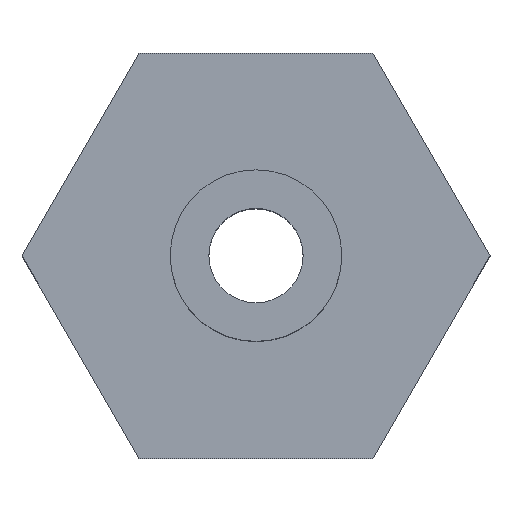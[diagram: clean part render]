
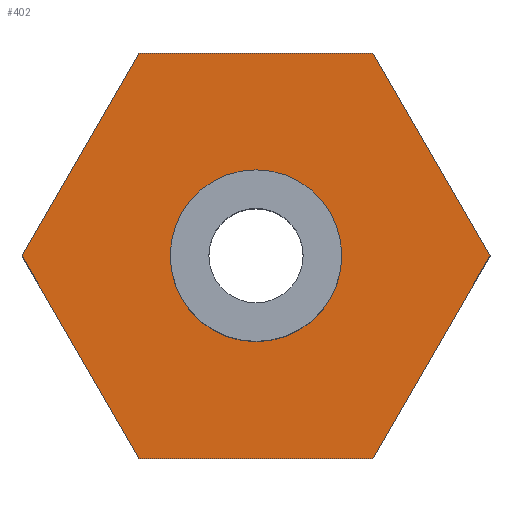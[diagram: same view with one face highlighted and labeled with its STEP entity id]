
A CAD part, top view. The second image highlights one B-rep face of the part: STEP entity #402.
In plain terms, the highlighted planar face has unit normal (0, 0, 1).
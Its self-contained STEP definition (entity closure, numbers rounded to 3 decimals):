
#24 = VERTEX_POINT('',#25);
#25 = CARTESIAN_POINT('',(26.05,0.,11.8));
#32 = PLANE('',#33);
#33 = AXIS2_PLACEMENT_3D('',#34,#35,#36);
#34 = CARTESIAN_POINT('',(26.05,0.,0.));
#35 = DIRECTION('',(-0.866,-0.5,0.));
#36 = DIRECTION('',(-0.5,0.866,0.));
#44 = PLANE('',#45);
#45 = AXIS2_PLACEMENT_3D('',#46,#47,#48);
#46 = CARTESIAN_POINT('',(13.025,-22.56,0.));
#47 = DIRECTION('',(-0.866,0.5,0.));
#48 = DIRECTION('',(0.5,0.866,0.));
#56 = EDGE_CURVE('',#24,#57,#59,.T.);
#57 = VERTEX_POINT('',#58);
#58 = CARTESIAN_POINT('',(13.025,22.56,11.8));
#59 = SURFACE_CURVE('',#60,(#64,#71),.PCURVE_S1.);
#60 = LINE('',#61,#62);
#61 = CARTESIAN_POINT('',(26.05,0.,11.8));
#62 = VECTOR('',#63,1.);
#63 = DIRECTION('',(-0.5,0.866,0.));
#64 = PCURVE('',#32,#65);
#65 = DEFINITIONAL_REPRESENTATION('',(#66),#70);
#66 = LINE('',#67,#68);
#67 = CARTESIAN_POINT('',(0.,-11.8));
#68 = VECTOR('',#69,1.);
#69 = DIRECTION('',(1.,0.));
#70 = ( GEOMETRIC_REPRESENTATION_CONTEXT(2) 
PARAMETRIC_REPRESENTATION_CONTEXT() REPRESENTATION_CONTEXT('2D SPACE',''
  ) );
#71 = PCURVE('',#72,#77);
#72 = PLANE('',#73);
#73 = AXIS2_PLACEMENT_3D('',#74,#75,#76);
#74 = CARTESIAN_POINT('',(0.,0.,11.8));
#75 = DIRECTION('',(0.,0.,1.));
#76 = DIRECTION('',(1.,0.,-0.));
#77 = DEFINITIONAL_REPRESENTATION('',(#78),#82);
#78 = LINE('',#79,#80);
#79 = CARTESIAN_POINT('',(26.05,0.));
#80 = VECTOR('',#81,1.);
#81 = DIRECTION('',(-0.5,0.866));
#82 = ( GEOMETRIC_REPRESENTATION_CONTEXT(2) 
PARAMETRIC_REPRESENTATION_CONTEXT() REPRESENTATION_CONTEXT('2D SPACE',''
  ) );
#100 = PLANE('',#101);
#101 = AXIS2_PLACEMENT_3D('',#102,#103,#104);
#102 = CARTESIAN_POINT('',(13.025,22.56,0.));
#103 = DIRECTION('',(0.,-1.,0.));
#104 = DIRECTION('',(-1.,0.,0.));
#144 = VERTEX_POINT('',#145);
#145 = CARTESIAN_POINT('',(13.025,-22.56,11.8));
#159 = PLANE('',#160);
#160 = AXIS2_PLACEMENT_3D('',#161,#162,#163);
#161 = CARTESIAN_POINT('',(-13.025,-22.56,0.));
#162 = DIRECTION('',(0.,1.,-0.));
#163 = DIRECTION('',(1.,0.,0.));
#171 = EDGE_CURVE('',#144,#24,#172,.T.);
#172 = SURFACE_CURVE('',#173,(#177,#184),.PCURVE_S1.);
#173 = LINE('',#174,#175);
#174 = CARTESIAN_POINT('',(13.025,-22.56,11.8));
#175 = VECTOR('',#176,1.);
#176 = DIRECTION('',(0.5,0.866,0.));
#177 = PCURVE('',#44,#178);
#178 = DEFINITIONAL_REPRESENTATION('',(#179),#183);
#179 = LINE('',#180,#181);
#180 = CARTESIAN_POINT('',(0.,-11.8));
#181 = VECTOR('',#182,1.);
#182 = DIRECTION('',(1.,0.));
#183 = ( GEOMETRIC_REPRESENTATION_CONTEXT(2) 
PARAMETRIC_REPRESENTATION_CONTEXT() REPRESENTATION_CONTEXT('2D SPACE',''
  ) );
#184 = PCURVE('',#72,#185);
#185 = DEFINITIONAL_REPRESENTATION('',(#186),#190);
#186 = LINE('',#187,#188);
#187 = CARTESIAN_POINT('',(13.025,-22.56));
#188 = VECTOR('',#189,1.);
#189 = DIRECTION('',(0.5,0.866));
#190 = ( GEOMETRIC_REPRESENTATION_CONTEXT(2) 
PARAMETRIC_REPRESENTATION_CONTEXT() REPRESENTATION_CONTEXT('2D SPACE',''
  ) );
#218 = EDGE_CURVE('',#57,#219,#221,.T.);
#219 = VERTEX_POINT('',#220);
#220 = CARTESIAN_POINT('',(-13.025,22.56,11.8));
#221 = SURFACE_CURVE('',#222,(#226,#233),.PCURVE_S1.);
#222 = LINE('',#223,#224);
#223 = CARTESIAN_POINT('',(13.025,22.56,11.8));
#224 = VECTOR('',#225,1.);
#225 = DIRECTION('',(-1.,0.,0.));
#226 = PCURVE('',#100,#227);
#227 = DEFINITIONAL_REPRESENTATION('',(#228),#232);
#228 = LINE('',#229,#230);
#229 = CARTESIAN_POINT('',(0.,-11.8));
#230 = VECTOR('',#231,1.);
#231 = DIRECTION('',(1.,0.));
#232 = ( GEOMETRIC_REPRESENTATION_CONTEXT(2) 
PARAMETRIC_REPRESENTATION_CONTEXT() REPRESENTATION_CONTEXT('2D SPACE',''
  ) );
#233 = PCURVE('',#72,#234);
#234 = DEFINITIONAL_REPRESENTATION('',(#235),#239);
#235 = LINE('',#236,#237);
#236 = CARTESIAN_POINT('',(13.025,22.56));
#237 = VECTOR('',#238,1.);
#238 = DIRECTION('',(-1.,0.));
#239 = ( GEOMETRIC_REPRESENTATION_CONTEXT(2) 
PARAMETRIC_REPRESENTATION_CONTEXT() REPRESENTATION_CONTEXT('2D SPACE',''
  ) );
#257 = PLANE('',#258);
#258 = AXIS2_PLACEMENT_3D('',#259,#260,#261);
#259 = CARTESIAN_POINT('',(-13.025,22.56,0.));
#260 = DIRECTION('',(0.866,-0.5,0.));
#261 = DIRECTION('',(-0.5,-0.866,0.));
#334 = PLANE('',#335);
#335 = AXIS2_PLACEMENT_3D('',#336,#337,#338);
#336 = CARTESIAN_POINT('',(-26.05,0.,0.));
#337 = DIRECTION('',(0.866,0.5,-0.));
#338 = DIRECTION('',(0.5,-0.866,0.));
#402 = ADVANCED_FACE('',(#403,#475),#72,.T.);
#403 = FACE_BOUND('',#404,.T.);
#404 = EDGE_LOOP('',(#405,#406,#407,#430,#453,#474));
#405 = ORIENTED_EDGE('',*,*,#56,.T.);
#406 = ORIENTED_EDGE('',*,*,#218,.T.);
#407 = ORIENTED_EDGE('',*,*,#408,.T.);
#408 = EDGE_CURVE('',#219,#409,#411,.T.);
#409 = VERTEX_POINT('',#410);
#410 = CARTESIAN_POINT('',(-26.05,0.,11.8));
#411 = SURFACE_CURVE('',#412,(#416,#423),.PCURVE_S1.);
#412 = LINE('',#413,#414);
#413 = CARTESIAN_POINT('',(-13.025,22.56,11.8));
#414 = VECTOR('',#415,1.);
#415 = DIRECTION('',(-0.5,-0.866,0.));
#416 = PCURVE('',#72,#417);
#417 = DEFINITIONAL_REPRESENTATION('',(#418),#422);
#418 = LINE('',#419,#420);
#419 = CARTESIAN_POINT('',(-13.025,22.56));
#420 = VECTOR('',#421,1.);
#421 = DIRECTION('',(-0.5,-0.866));
#422 = ( GEOMETRIC_REPRESENTATION_CONTEXT(2) 
PARAMETRIC_REPRESENTATION_CONTEXT() REPRESENTATION_CONTEXT('2D SPACE',''
  ) );
#423 = PCURVE('',#257,#424);
#424 = DEFINITIONAL_REPRESENTATION('',(#425),#429);
#425 = LINE('',#426,#427);
#426 = CARTESIAN_POINT('',(0.,-11.8));
#427 = VECTOR('',#428,1.);
#428 = DIRECTION('',(1.,0.));
#429 = ( GEOMETRIC_REPRESENTATION_CONTEXT(2) 
PARAMETRIC_REPRESENTATION_CONTEXT() REPRESENTATION_CONTEXT('2D SPACE',''
  ) );
#430 = ORIENTED_EDGE('',*,*,#431,.T.);
#431 = EDGE_CURVE('',#409,#432,#434,.T.);
#432 = VERTEX_POINT('',#433);
#433 = CARTESIAN_POINT('',(-13.025,-22.56,11.8));
#434 = SURFACE_CURVE('',#435,(#439,#446),.PCURVE_S1.);
#435 = LINE('',#436,#437);
#436 = CARTESIAN_POINT('',(-26.05,0.,11.8));
#437 = VECTOR('',#438,1.);
#438 = DIRECTION('',(0.5,-0.866,0.));
#439 = PCURVE('',#72,#440);
#440 = DEFINITIONAL_REPRESENTATION('',(#441),#445);
#441 = LINE('',#442,#443);
#442 = CARTESIAN_POINT('',(-26.05,0.));
#443 = VECTOR('',#444,1.);
#444 = DIRECTION('',(0.5,-0.866));
#445 = ( GEOMETRIC_REPRESENTATION_CONTEXT(2) 
PARAMETRIC_REPRESENTATION_CONTEXT() REPRESENTATION_CONTEXT('2D SPACE',''
  ) );
#446 = PCURVE('',#334,#447);
#447 = DEFINITIONAL_REPRESENTATION('',(#448),#452);
#448 = LINE('',#449,#450);
#449 = CARTESIAN_POINT('',(0.,-11.8));
#450 = VECTOR('',#451,1.);
#451 = DIRECTION('',(1.,0.));
#452 = ( GEOMETRIC_REPRESENTATION_CONTEXT(2) 
PARAMETRIC_REPRESENTATION_CONTEXT() REPRESENTATION_CONTEXT('2D SPACE',''
  ) );
#453 = ORIENTED_EDGE('',*,*,#454,.T.);
#454 = EDGE_CURVE('',#432,#144,#455,.T.);
#455 = SURFACE_CURVE('',#456,(#460,#467),.PCURVE_S1.);
#456 = LINE('',#457,#458);
#457 = CARTESIAN_POINT('',(-13.025,-22.56,11.8));
#458 = VECTOR('',#459,1.);
#459 = DIRECTION('',(1.,0.,0.));
#460 = PCURVE('',#72,#461);
#461 = DEFINITIONAL_REPRESENTATION('',(#462),#466);
#462 = LINE('',#463,#464);
#463 = CARTESIAN_POINT('',(-13.025,-22.56));
#464 = VECTOR('',#465,1.);
#465 = DIRECTION('',(1.,0.));
#466 = ( GEOMETRIC_REPRESENTATION_CONTEXT(2) 
PARAMETRIC_REPRESENTATION_CONTEXT() REPRESENTATION_CONTEXT('2D SPACE',''
  ) );
#467 = PCURVE('',#159,#468);
#468 = DEFINITIONAL_REPRESENTATION('',(#469),#473);
#469 = LINE('',#470,#471);
#470 = CARTESIAN_POINT('',(0.,-11.8));
#471 = VECTOR('',#472,1.);
#472 = DIRECTION('',(1.,0.));
#473 = ( GEOMETRIC_REPRESENTATION_CONTEXT(2) 
PARAMETRIC_REPRESENTATION_CONTEXT() REPRESENTATION_CONTEXT('2D SPACE',''
  ) );
#474 = ORIENTED_EDGE('',*,*,#171,.T.);
#475 = FACE_BOUND('',#476,.T.);
#476 = EDGE_LOOP('',(#477));
#477 = ORIENTED_EDGE('',*,*,#478,.F.);
#478 = EDGE_CURVE('',#479,#479,#481,.T.);
#479 = VERTEX_POINT('',#480);
#480 = CARTESIAN_POINT('',(9.55,0.,11.8));
#481 = SURFACE_CURVE('',#482,(#487,#494),.PCURVE_S1.);
#482 = CIRCLE('',#483,9.55);
#483 = AXIS2_PLACEMENT_3D('',#484,#485,#486);
#484 = CARTESIAN_POINT('',(0.,0.,11.8));
#485 = DIRECTION('',(0.,0.,1.));
#486 = DIRECTION('',(1.,0.,0.));
#487 = PCURVE('',#72,#488);
#488 = DEFINITIONAL_REPRESENTATION('',(#489),#493);
#489 = CIRCLE('',#490,9.55);
#490 = AXIS2_PLACEMENT_2D('',#491,#492);
#491 = CARTESIAN_POINT('',(0.,0.));
#492 = DIRECTION('',(1.,0.));
#493 = ( GEOMETRIC_REPRESENTATION_CONTEXT(2) 
PARAMETRIC_REPRESENTATION_CONTEXT() REPRESENTATION_CONTEXT('2D SPACE',''
  ) );
#494 = PCURVE('',#495,#500);
#495 = CYLINDRICAL_SURFACE('',#496,9.55);
#496 = AXIS2_PLACEMENT_3D('',#497,#498,#499);
#497 = CARTESIAN_POINT('',(0.,0.,11.8));
#498 = DIRECTION('',(-0.,-0.,-1.));
#499 = DIRECTION('',(1.,0.,0.));
#500 = DEFINITIONAL_REPRESENTATION('',(#501),#505);
#501 = LINE('',#502,#503);
#502 = CARTESIAN_POINT('',(-0.,0.));
#503 = VECTOR('',#504,1.);
#504 = DIRECTION('',(-1.,0.));
#505 = ( GEOMETRIC_REPRESENTATION_CONTEXT(2) 
PARAMETRIC_REPRESENTATION_CONTEXT() REPRESENTATION_CONTEXT('2D SPACE',''
  ) );
